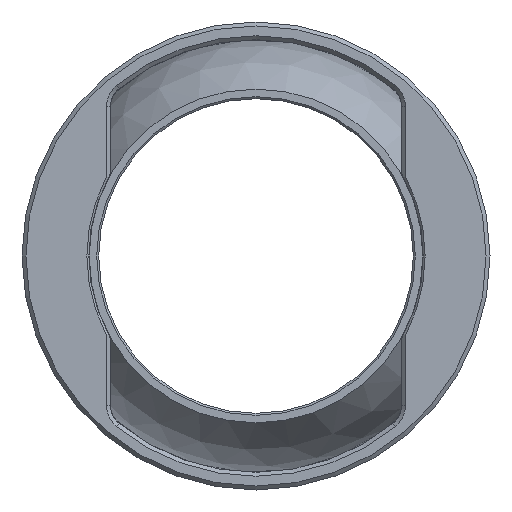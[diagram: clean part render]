
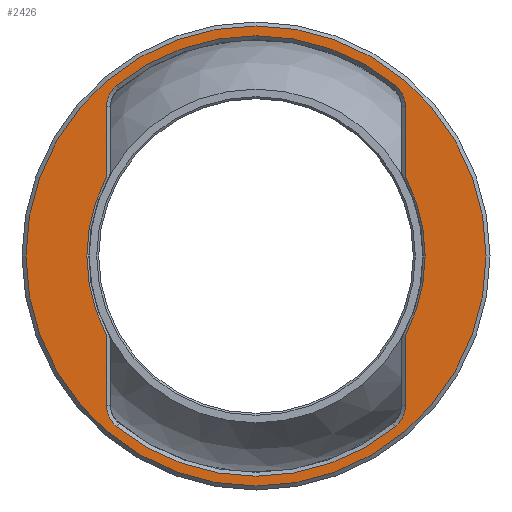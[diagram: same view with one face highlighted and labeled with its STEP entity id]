
A CAD part, front view. The second image highlights one B-rep face of the part: STEP entity #2426.
In plain terms, the highlighted planar face has unit normal (0, -1, 0).
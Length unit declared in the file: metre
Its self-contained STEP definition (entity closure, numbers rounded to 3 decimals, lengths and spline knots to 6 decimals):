
#2426=ADVANCED_FACE('',(#4158,#4159),#4160,.F.);
#4158=FACE_OUTER_BOUND('',#8126,.T.);
#4159=FACE_BOUND('',#8127,.T.);
#4160=PLANE('',#8128);
#8126=EDGE_LOOP('',(#10139));
#8127=EDGE_LOOP('',(#10140,#10141,#10142,#10143,#10144,#10145,#10146,#10147,#10148,#10149,#10150,#10151));
#8128=AXIS2_PLACEMENT_3D('',#10152,#10153,#10154);
#10139=ORIENTED_EDGE('',*,*,#10251,.F.);
#10140=ORIENTED_EDGE('',*,*,#10320,.T.);
#10141=ORIENTED_EDGE('',*,*,#10297,.T.);
#10142=ORIENTED_EDGE('',*,*,#10318,.T.);
#10143=ORIENTED_EDGE('',*,*,#10310,.T.);
#10144=ORIENTED_EDGE('',*,*,#10218,.T.);
#10145=ORIENTED_EDGE('',*,*,#10289,.T.);
#10146=ORIENTED_EDGE('',*,*,#10316,.T.);
#10147=ORIENTED_EDGE('',*,*,#10245,.T.);
#10148=ORIENTED_EDGE('',*,*,#10237,.T.);
#10149=ORIENTED_EDGE('',*,*,#10303,.T.);
#10150=ORIENTED_EDGE('',*,*,#10329,.T.);
#10151=ORIENTED_EDGE('',*,*,#10233,.T.);
#10152=CARTESIAN_POINT('',(0.713754,0.430769,0.0));
#10153=DIRECTION('',(0.,1.0,0.0));
#10154=DIRECTION('',(-1.0,0.,0.0));
#10218=EDGE_CURVE('',#10356,#10361,#10363,.T.);
#10233=EDGE_CURVE('',#10384,#10386,#10388,.T.);
#10237=EDGE_CURVE('',#10395,#10393,#10396,.T.);
#10245=EDGE_CURVE('',#10407,#10395,#10408,.T.);
#10251=EDGE_CURVE('',#10416,#10416,#10417,.T.);
#10289=EDGE_CURVE('',#10361,#10473,#10475,.T.);
#10297=EDGE_CURVE('',#10486,#10484,#10487,.T.);
#10303=EDGE_CURVE('',#10393,#10493,#10495,.T.);
#10310=EDGE_CURVE('',#10504,#10356,#10505,.T.);
#10316=EDGE_CURVE('',#10473,#10407,#10513,.T.);
#10318=EDGE_CURVE('',#10484,#10504,#10515,.T.);
#10320=EDGE_CURVE('',#10386,#10486,#10517,.T.);
#10329=EDGE_CURVE('',#10493,#10384,#10527,.T.);
#10356=VERTEX_POINT('',#10571);
#10361=VERTEX_POINT('',#10577);
#10363=CIRCLE('',#10580,0.007);
#10384=VERTEX_POINT('',#10603);
#10386=VERTEX_POINT('',#10606);
#10388=CIRCLE('',#10609,0.056);
#10393=VERTEX_POINT('',#10614);
#10395=VERTEX_POINT('',#10619);
#10396=CIRCLE('',#10620,0.043);
#10407=VERTEX_POINT('',#10634);
#10408=LINE('',#10635,#10636);
#10416=VERTEX_POINT('',#10646);
#10417=CIRCLE('',#10647,0.0585);
#10473=VERTEX_POINT('',#10722);
#10475=CIRCLE('',#10725,0.056);
#10484=VERTEX_POINT('',#10734);
#10486=VERTEX_POINT('',#10739);
#10487=LINE('',#10740,#10741);
#10493=VERTEX_POINT('',#10750);
#10495=LINE('',#10753,#10754);
#10504=VERTEX_POINT('',#10764);
#10505=LINE('',#10765,#10766);
#10513=CIRCLE('',#10777,0.007);
#10515=CIRCLE('',#10779,0.043);
#10517=CIRCLE('',#10781,0.007);
#10527=CIRCLE('',#10816,0.007);
#10571=CARTESIAN_POINT('',(0.718754,0.430769,0.037947));
#10577=CARTESIAN_POINT('',(0.721326,0.430769,0.043368));
#10580=AXIS2_PLACEMENT_3D('',#10846,#10847,#10848);
#10603=CARTESIAN_POINT('',(0.792183,0.430769,-0.043368));
#10606=CARTESIAN_POINT('',(0.721326,0.430769,-0.043368));
#10609=AXIS2_PLACEMENT_3D('',#10871,#10872,#10873);
#10614=CARTESIAN_POINT('',(0.794754,0.430769,-0.020125));
#10619=CARTESIAN_POINT('',(0.794754,0.430769,0.020125));
#10620=AXIS2_PLACEMENT_3D('',#10877,#10878,#10879);
#10634=CARTESIAN_POINT('',(0.794754,0.430769,0.037947));
#10635=CARTESIAN_POINT('',(0.794754,0.430769,0.021909));
#10636=VECTOR('',#10889,1.0);
#10646=CARTESIAN_POINT('',(0.698254,0.430769,0.0));
#10647=AXIS2_PLACEMENT_3D('',#10898,#10899,#10900);
#10722=CARTESIAN_POINT('',(0.792183,0.430769,0.043368));
#10725=AXIS2_PLACEMENT_3D('',#10960,#10961,#10962);
#10734=CARTESIAN_POINT('',(0.718754,0.430769,-0.020125));
#10739=CARTESIAN_POINT('',(0.718754,0.430769,-0.037947));
#10740=CARTESIAN_POINT('',(0.718754,0.430769,-0.021909));
#10741=VECTOR('',#10969,1.0);
#10750=CARTESIAN_POINT('',(0.794754,0.430769,-0.037947));
#10753=CARTESIAN_POINT('',(0.794754,0.430769,-0.037947));
#10754=VECTOR('',#10974,1.0);
#10764=CARTESIAN_POINT('',(0.718754,0.430769,0.020125));
#10765=CARTESIAN_POINT('',(0.718754,0.430769,0.037947));
#10766=VECTOR('',#10982,1.0);
#10777=AXIS2_PLACEMENT_3D('',#10989,#10990,#10991);
#10779=AXIS2_PLACEMENT_3D('',#10992,#10993,#10994);
#10781=AXIS2_PLACEMENT_3D('',#10995,#10996,#10997);
#10816=AXIS2_PLACEMENT_3D('',#11002,#11003,#11004);
#10846=CARTESIAN_POINT('',(0.725754,0.430769,0.037947));
#10847=DIRECTION('',(0.,1.0,0.0));
#10848=DIRECTION('',(-1.0,0.,0.0));
#10871=CARTESIAN_POINT('',(0.756754,0.430769,0.));
#10872=DIRECTION('',(0.,1.0,0.0));
#10873=DIRECTION('',(-1.0,0.,0.0));
#10877=CARTESIAN_POINT('',(0.756754,0.430769,0.0));
#10878=DIRECTION('',(0.,1.0,0.0));
#10879=DIRECTION('',(-1.0,0.,0.0));
#10889=DIRECTION('',(0.0,0.0,-1.0));
#10898=CARTESIAN_POINT('',(0.756754,0.430769,0.0));
#10899=DIRECTION('',(0.,1.0,0.0));
#10900=DIRECTION('',(-1.0,0.,0.0));
#10960=CARTESIAN_POINT('',(0.756754,0.430769,0.));
#10961=DIRECTION('',(0.,1.0,0.0));
#10962=DIRECTION('',(-1.0,0.,0.0));
#10969=DIRECTION('',(0.,0.,1.0));
#10974=DIRECTION('',(0.0,0.0,-1.0));
#10982=DIRECTION('',(0.,0.,1.0));
#10989=CARTESIAN_POINT('',(0.787754,0.430769,0.037947));
#10990=DIRECTION('',(0.,1.0,0.0));
#10991=DIRECTION('',(-1.0,0.,0.0));
#10992=CARTESIAN_POINT('',(0.756754,0.430769,0.0));
#10993=DIRECTION('',(0.,1.0,0.0));
#10994=DIRECTION('',(-1.0,0.,0.0));
#10995=CARTESIAN_POINT('',(0.725754,0.430769,-0.037947));
#10996=DIRECTION('',(0.,1.0,0.0));
#10997=DIRECTION('',(-1.0,0.,0.0));
#11002=CARTESIAN_POINT('',(0.787754,0.430769,-0.037947));
#11003=DIRECTION('',(0.,1.0,0.0));
#11004=DIRECTION('',(-1.0,0.,0.0));
